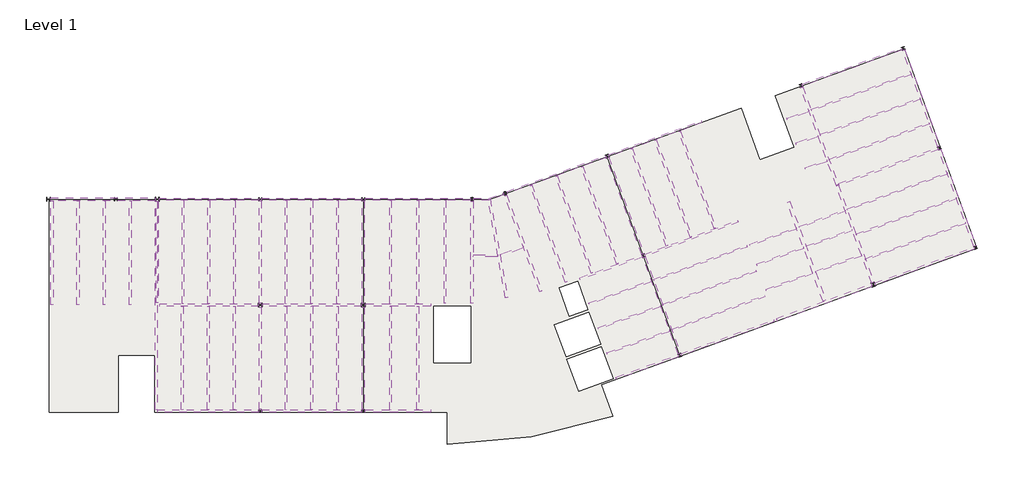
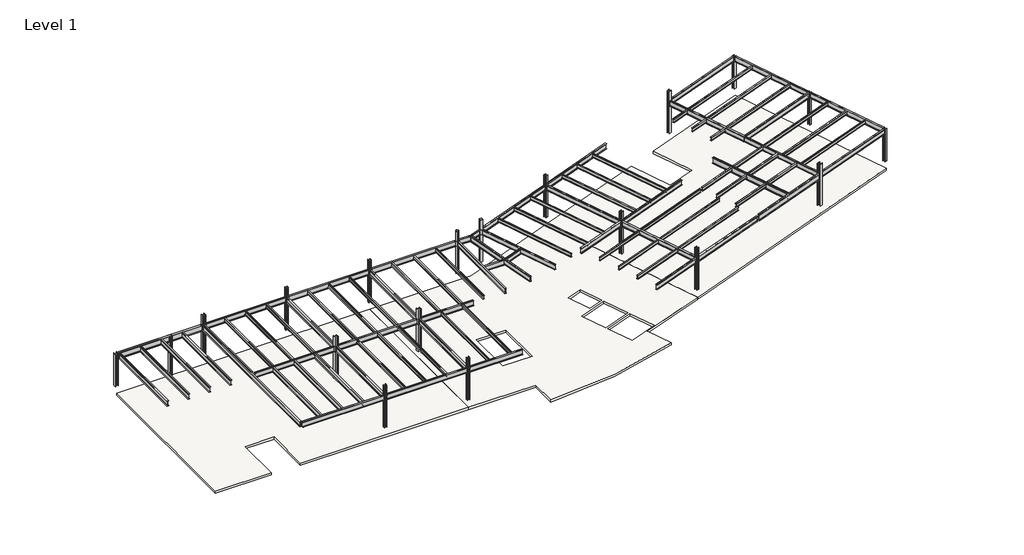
# One storey: 87 beams, 19 columns, 1 slab.
"""IFC4 building model written with IfcOpenShell, lengths in millimetres."""

from ifc_helpers import new_model, si_unit, point, frame, frame_2d, origin, place, context, project, spatial, polyline, circle_curve, trimmed, segment, composite_curve, outline, extrude, transform, mapped, element, save
from components import beam_66a8d71c, ub_universal_beams_e915e172, ub_universal_beams_a95554c7, ub_universal_beams_b6dbdd7a, ub_universal_beams_9ada3ad7, ub_universal_beams_885cc86f, ub_universal_beams_c84566a2, ub_universal_beams_4841b023, ub_universal_beams_20791346, ub_universal_beams_18d3feb0, ub_universal_beams_59459dd6, ub_universal_beams_568b5c51, ub_universal_beams_e00400c9, ub_universal_beams_f823aa85, ub_universal_beams_cdbcbb51, ub_universal_beams_2db27d90, ub_universal_beams_feb0265b, ub_universal_beams_78ad538f, ub_universal_beams_801fcbf0, ub_universal_beams_7192e0ee, ub_universal_beams_e0a47d06, ub_universal_beams_f5dc209c, ub_universal_beams_f862a4b8, ub_universal_beams_0fc11a2d, ub_universal_beams_656765b2, ub_universal_beams_21f5ef47, ub_universal_beams_7b4bcd9a, ub_universal_beams_8d1efc97, ub_universal_beams_2b7a043a, ub_universal_beams_8d2b0bf5, ub_universal_beams_37de3949, ub_universal_beams_43212cfb, ub_universal_beams_777f85ab, ub_universal_beams_8ec85ef7, ub_universal_beams_16a75a32, ub_universal_beams_b9a7bbe5, ub_universal_beams_60794b88, ub_universal_beams_0c249d50, ub_universal_beams_892b370d, ub_universal_beams_25e113f4, ub_universal_beams_813faa96, ub_universal_beams_bf94d013, ub_universal_beams_c91190e6, column_fd5da61b, uc_universal_columns_column_9b15f2e4, uc_universal_columns_column_e63b660d, uc_universal_columns_column_cef70da3, uc_universal_columns_column_7956e9f7

model = new_model("IFC4")

# Units and contexts
model_context = context("Model", 3, world=origin())
ifc_project = project(units=[si_unit("LENGTHUNIT", "METRE", prefix="MILLI")], contexts=[model_context])

# Site, building, storey
site = spatial("IfcSite", under=ifc_project)
building = spatial("IfcBuilding", under=site)
storey = spatial("IfcBuildingStorey", under=building, Name="Level 1", Elevation=3695.0)

# Beams
placement = place(None, origin())
beam_shape = beam_66a8d71c(model_context)
element("IfcBeam", 1, ObjectType="Cranked Beam B2 : Cranked Beam B1", at=placement, inside=storey, context=model_context, shape_type="MappedRepresentation", body=[
    mapped(beam_shape, transform((0.0, 0.0, 0.0), x_axis=(1.0, 0.0, 0.0), y_axis=(0.0, 1.0, 0.0), z_axis=(0.0, 0.0, 1.0))),
])
ub_universal_beams_shape = ub_universal_beams_e915e172(model_context)
element("IfcBeam", 2, ObjectType="UB-Universal Beams : UB 18\" x 6\" x 2 1/2\"", at=placement, inside=storey, context=model_context, shape_type="MappedRepresentation", body=[
    mapped(ub_universal_beams_shape, transform((11712.2000023, 15363.2000005, 7366.0), x_axis=(1.0, 0.0, 0.0), y_axis=(0.0, 1.0, 0.0), z_axis=(0.0, 0.0, 1.0))),
])
ub_universal_beams_2_shape = ub_universal_beams_a95554c7(model_context)
element("IfcBeam", 3, ObjectType="UB-Universal Beams : UB 18\" x 6\" x 2 1/2\"", at=placement, inside=storey, context=model_context, shape_type="MappedRepresentation", body=[
    mapped(ub_universal_beams_2_shape, transform((19012.2000023, 15363.2000005, 7366.0), x_axis=(1.0, 0.0, 0.0), y_axis=(0.0, 1.0, 0.0), z_axis=(0.0, 0.0, 1.0))),
])
element("IfcBeam", 4, ObjectType="UB-Universal Beams : UB 18\" x 6\" x 2 1/2\"", at=placement, inside=storey, context=model_context, shape_type="MappedRepresentation", body=[
    mapped(ub_universal_beams_2_shape, transform((19012.2000022, 363.2000005, 7366.0), x_axis=(1.0, 0.0, 0.0), y_axis=(0.0, 1.0, 0.0), z_axis=(0.0, 0.0, 1.0))),
])
ub_universal_beams_3_shape = ub_universal_beams_b6dbdd7a(model_context)
element("IfcBeam", 5, ObjectType="UB-Universal Beams : UB 18\" x 6\" x 2 1/2\"", at=placement, inside=storey, context=model_context, shape_type="MappedRepresentation", body=[
    mapped(ub_universal_beams_3_shape, transform((26512.2000022, 15363.2000005, 7366.0), x_axis=(1.0, 0.0, 0.0), y_axis=(0.0, 1.0, 0.0), z_axis=(0.0, 0.0, 1.0))),
])
ub_universal_beams_4_shape = ub_universal_beams_9ada3ad7(model_context)
element("IfcBeam", 6, ObjectType="UB-Universal Beams : UB 18\" x 6\" x 2 1/2\"", at=placement, inside=storey, context=model_context, shape_type="MappedRepresentation", body=[
    mapped(ub_universal_beams_4_shape, transform((11674.7000023, 7863.2000004, 7366.0), x_axis=(-1.0, 0.0, 0.0), y_axis=(0.0, -1.0, 0.0), z_axis=(0.0, 0.0, 1.0))),
])
ub_universal_beams_5_shape = ub_universal_beams_885cc86f(model_context)
element("IfcBeam", 7, ObjectType="UB-Universal Beams : UB 18\" x 6\" x 2 1/2\"", at=placement, inside=storey, context=model_context, shape_type="MappedRepresentation", body=[
    mapped(ub_universal_beams_5_shape, transform((11674.7000023, 363.2000005, 7366.0), x_axis=(-1.0, 0.0, 0.0), y_axis=(0.0, -1.0, 0.0), z_axis=(0.0, 0.0, 1.0))),
])
ub_universal_beams_6_shape = ub_universal_beams_c84566a2(model_context)
element("IfcBeam", 8, ObjectType="UB-Universal Beams : UB 18\" x 6\" x 2 1/2\"", at=placement, inside=storey, context=model_context, shape_type="MappedRepresentation", body=[
    mapped(ub_universal_beams_6_shape, transform((19012.2000023, 7863.2000004, 7366.0), x_axis=(1.0, 0.0, 0.0), y_axis=(0.0, 1.0, 0.0), z_axis=(0.0, 0.0, 1.0))),
])
ub_universal_beams_7_shape = ub_universal_beams_4841b023(model_context)
element("IfcBeam", 9, ObjectType="UB-Universal Beams : UB 18\" x 6\" x 2 1/2\"", at=placement, inside=storey, context=model_context, shape_type="MappedRepresentation", body=[
    mapped(ub_universal_beams_7_shape, transform((25112.2000025, 7863.2000004, 7366.0), x_axis=(1.0, 0.0, 0.0), y_axis=(0.0, 1.0, 0.0), z_axis=(0.0, 0.0, 1.0))),
])
ub_universal_beams_8_shape = ub_universal_beams_20791346(model_context)
element("IfcBeam", 10, ObjectType="UB-Universal Beams : UB 18\" x 6\" x 2 1/2\"", at=placement, inside=storey, context=model_context, shape_type="MappedRepresentation", body=[
    mapped(ub_universal_beams_8_shape, transform((25112.2000025, 363.2000005, 7366.0), x_axis=(1.0, 0.0, 0.0), y_axis=(0.0, 1.0, 0.0), z_axis=(0.0, 0.0, 1.0))),
])
ub_universal_beams_9_shape = ub_universal_beams_18d3feb0(model_context)
element("IfcBeam", 11, ObjectType="UB-Universal Beams : UB 18\" x 6\" x 2 1/2\"", at=placement, inside=storey, context=model_context, shape_type="MappedRepresentation", body=[
    mapped(ub_universal_beams_9_shape, transform((8062.2000022, 11613.2000005, 7366.0), x_axis=(0.0, 1.0, 0.0), y_axis=(-1.0, 0.0, 0.0), z_axis=(0.0, 0.0, 1.0))),
])
ub_universal_beams_10_shape = ub_universal_beams_59459dd6(model_context)
element("IfcBeam", 12, ObjectType="UB-Universal Beams : UB 18\" x 6\" x 2 1/2\"", at=placement, inside=storey, context=model_context, shape_type="MappedRepresentation", body=[
    mapped(ub_universal_beams_10_shape, transform((15362.2000023, 4113.2000005, 7366.0), x_axis=(0.0, 1.0, 0.0), y_axis=(-1.0, 0.0, 0.0), z_axis=(0.0, 0.0, 1.0))),
])
element("IfcBeam", 13, ObjectType="UB-Universal Beams : UB 18\" x 6\" x 2 1/2\"", at=placement, inside=storey, context=model_context, shape_type="MappedRepresentation", body=[
    mapped(ub_universal_beams_10_shape, transform((22662.2000022, 4113.2000005, 7366.0), x_axis=(0.0, 1.0, 0.0), y_axis=(-1.0, 0.0, 0.0), z_axis=(0.0, 0.0, 1.0))),
])
ub_universal_beams_11_shape = ub_universal_beams_568b5c51(model_context)
element("IfcBeam", 14, ObjectType="UB-Universal Beams : UB 18\" x 6\" x 2 1/2\"", at=placement, inside=storey, context=model_context, shape_type="MappedRepresentation", body=[
    mapped(ub_universal_beams_11_shape, transform((15362.2000023, 11613.2000005, 7366.0), x_axis=(0.0, 1.0, 0.0), y_axis=(-1.0, 0.0, 0.0), z_axis=(0.0, 0.0, 1.0))),
])
element("IfcBeam", 15, ObjectType="UB-Universal Beams : UB 18\" x 6\" x 2 1/2\"", at=placement, inside=storey, context=model_context, shape_type="MappedRepresentation", body=[
    mapped(ub_universal_beams_11_shape, transform((22662.2000022, 11613.2000005, 7366.0), x_axis=(0.0, 1.0, 0.0), y_axis=(-1.0, 0.0, 0.0), z_axis=(0.0, 0.0, 1.0))),
])
ub_universal_beams_12_shape = ub_universal_beams_e00400c9(model_context)
element("IfcBeam", 16, ObjectType="UB-Universal Beams : UB 18\" x 6\" x 2 1/2\"", at=placement, inside=storey, context=model_context, shape_type="MappedRepresentation", body=[
    mapped(ub_universal_beams_12_shape, transform((30362.2000022, 11613.2000005, 7366.0), x_axis=(0.0, 1.0, 0.0), y_axis=(-1.0, 0.0, 0.0), z_axis=(0.0, 0.0, 1.0))),
])
ub_universal_beams_13_shape = ub_universal_beams_f823aa85(model_context)
element("IfcBeam", 17, ObjectType="UB-Universal Beams : UB 12\" x 5\" x 1 1/2\"", at=placement, inside=storey, context=model_context, shape_type="MappedRepresentation", body=[
    mapped(ub_universal_beams_13_shape, transform((9887.2000022, 11613.2000005, 7442.8), x_axis=(0.0, 1.0, 0.0), y_axis=(-1.0, 0.0, 0.0), z_axis=(0.0, 0.0, 1.0))),
])
element("IfcBeam", 18, ObjectType="UB-Universal Beams : UB 12\" x 5\" x 1 1/2\"", at=placement, inside=storey, context=model_context, shape_type="MappedRepresentation", body=[
    mapped(ub_universal_beams_13_shape, transform((11712.2000022, 11613.2000005, 7442.8), x_axis=(0.0, 1.0, 0.0), y_axis=(-1.0, 0.0, 0.0), z_axis=(0.0, 0.0, 1.0))),
])
element("IfcBeam", 19, ObjectType="UB-Universal Beams : UB 12\" x 5\" x 1 1/2\"", at=placement, inside=storey, context=model_context, shape_type="MappedRepresentation", body=[
    mapped(ub_universal_beams_13_shape, transform((13537.2000023, 11613.2000005, 7442.8), x_axis=(0.0, 1.0, 0.0), y_axis=(-1.0, 0.0, 0.0), z_axis=(0.0, 0.0, 1.0))),
])
element("IfcBeam", 20, ObjectType="UB-Universal Beams : UB 12\" x 5\" x 1 1/2\"", at=placement, inside=storey, context=model_context, shape_type="MappedRepresentation", body=[
    mapped(ub_universal_beams_13_shape, transform((17187.2000023, 11613.2000005, 7442.8), x_axis=(0.0, 1.0, 0.0), y_axis=(-1.0, 0.0, 0.0), z_axis=(0.0, 0.0, 1.0))),
])
element("IfcBeam", 21, ObjectType="UB-Universal Beams : UB 12\" x 5\" x 1 1/2\"", at=placement, inside=storey, context=model_context, shape_type="MappedRepresentation", body=[
    mapped(ub_universal_beams_13_shape, transform((19012.2000023, 11613.2000005, 7442.8), x_axis=(0.0, 1.0, 0.0), y_axis=(-1.0, 0.0, 0.0), z_axis=(0.0, 0.0, 1.0))),
])
element("IfcBeam", 22, ObjectType="UB-Universal Beams : UB 12\" x 5\" x 1 1/2\"", at=placement, inside=storey, context=model_context, shape_type="MappedRepresentation", body=[
    mapped(ub_universal_beams_13_shape, transform((20837.2000022, 11613.2000005, 7442.8), x_axis=(0.0, 1.0, 0.0), y_axis=(-1.0, 0.0, 0.0), z_axis=(0.0, 0.0, 1.0))),
])
element("IfcBeam", 23, ObjectType="UB-Universal Beams : UB 12\" x 5\" x 1 1/2\"", at=placement, inside=storey, context=model_context, shape_type="MappedRepresentation", body=[
    mapped(ub_universal_beams_13_shape, transform((24587.2000022, 11613.2000005, 7442.8), x_axis=(0.0, 1.0, 0.0), y_axis=(-1.0, 0.0, 0.0), z_axis=(0.0, 0.0, 1.0))),
])
element("IfcBeam", 24, ObjectType="UB-Universal Beams : UB 12\" x 5\" x 1 1/2\"", at=placement, inside=storey, context=model_context, shape_type="MappedRepresentation", body=[
    mapped(ub_universal_beams_13_shape, transform((26512.2000022, 11613.2000005, 7442.8), x_axis=(0.0, 1.0, 0.0), y_axis=(-1.0, 0.0, 0.0), z_axis=(0.0, 0.0, 1.0))),
])
element("IfcBeam", 25, ObjectType="UB-Universal Beams : UB 12\" x 5\" x 1 1/2\"", at=placement, inside=storey, context=model_context, shape_type="MappedRepresentation", body=[
    mapped(ub_universal_beams_13_shape, transform((17187.2000022, 4113.2000005, 7442.8), x_axis=(0.0, 1.0, 0.0), y_axis=(-1.0, 0.0, 0.0), z_axis=(0.0, 0.0, 1.0))),
])
element("IfcBeam", 26, ObjectType="UB-Universal Beams : UB 12\" x 5\" x 1 1/2\"", at=placement, inside=storey, context=model_context, shape_type="MappedRepresentation", body=[
    mapped(ub_universal_beams_13_shape, transform((19012.2000022, 4113.2000005, 7442.8), x_axis=(0.0, 1.0, 0.0), y_axis=(-1.0, 0.0, 0.0), z_axis=(0.0, 0.0, 1.0))),
])
element("IfcBeam", 27, ObjectType="UB-Universal Beams : UB 12\" x 5\" x 1 1/2\"", at=placement, inside=storey, context=model_context, shape_type="MappedRepresentation", body=[
    mapped(ub_universal_beams_13_shape, transform((20837.2000022, 4113.2000005, 7442.8), x_axis=(0.0, 1.0, 0.0), y_axis=(-1.0, 0.0, 0.0), z_axis=(0.0, 0.0, 1.0))),
])
element("IfcBeam", 28, ObjectType="UB-Universal Beams : UB 12\" x 5\" x 1 1/2\"", at=placement, inside=storey, context=model_context, shape_type="MappedRepresentation", body=[
    mapped(ub_universal_beams_13_shape, transform((24587.2000022, 4113.2000004, 7442.8), x_axis=(0.0, 1.0, 0.0), y_axis=(-1.0, 0.0, 0.0), z_axis=(0.0, 0.0, 1.0))),
])
element("IfcBeam", 29, ObjectType="UB-Universal Beams : UB 12\" x 5\" x 1 1/2\"", at=placement, inside=storey, context=model_context, shape_type="MappedRepresentation", body=[
    mapped(ub_universal_beams_13_shape, transform((26512.2000022, 4113.2000004, 7442.8), x_axis=(0.0, 1.0, 0.0), y_axis=(-1.0, 0.0, 0.0), z_axis=(0.0, 0.0, 1.0))),
])
element("IfcBeam", 30, ObjectType="UB-Universal Beams : UB 12\" x 5\" x 1 1/2\"", at=placement, inside=storey, context=model_context, shape_type="MappedRepresentation", body=[
    mapped(ub_universal_beams_13_shape, transform((39409.0148654, 14226.6858637, 7442.8), x_axis=(0.34202014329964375, -0.9396926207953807, 0.0), y_axis=(0.9396926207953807, 0.34202014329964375, 0.0), z_axis=(0.0, 0.0, 1.0))),
])
element("IfcBeam", 31, ObjectType="UB-Universal Beams : UB 12\" x 5\" x 1 1/2\"", at=placement, inside=storey, context=model_context, shape_type="MappedRepresentation", body=[
    mapped(ub_universal_beams_13_shape, transform((37600.1065704, 13568.2970878, 7442.8), x_axis=(0.34202014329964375, -0.9396926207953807, 0.0), y_axis=(0.9396926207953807, 0.34202014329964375, 0.0), z_axis=(0.0, 0.0, 1.0))),
])
element("IfcBeam", 32, ObjectType="UB-Universal Beams : UB 12\" x 5\" x 1 1/2\"", at=placement, inside=storey, context=model_context, shape_type="MappedRepresentation", body=[
    mapped(ub_universal_beams_13_shape, transform((42915.2429568, 15502.8485233, 7442.8), x_axis=(-0.3420201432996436, 0.9396926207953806, 0.0), y_axis=(-0.9396926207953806, -0.3420201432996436, 0.0), z_axis=(0.0, 0.0, 1.0))),
])
element("IfcBeam", 33, ObjectType="UB-Universal Beams : UB 12\" x 5\" x 1 1/2\"", at=placement, inside=storey, context=model_context, shape_type="MappedRepresentation", body=[
    mapped(ub_universal_beams_13_shape, transform((44612.5627531, 16120.6224071, 7442.8), x_axis=(-0.34202014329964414, 0.9396926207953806, 0.0), y_axis=(-0.9396926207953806, -0.34202014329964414, 0.0), z_axis=(0.0, 0.0, 1.0))),
])
element("IfcBeam", 34, ObjectType="UB-Universal Beams : UB 12\" x 5\" x 1 1/2\"", at=placement, inside=storey, context=model_context, shape_type="MappedRepresentation", body=[
    mapped(ub_universal_beams_13_shape, transform((46309.8825494, 16738.396291, 7442.8), x_axis=(-0.34202014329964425, 0.9396926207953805, 0.0), y_axis=(-0.9396926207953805, -0.34202014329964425, 0.0), z_axis=(0.0, 0.0, 1.0))),
])
ub_universal_beams_14_shape = ub_universal_beams_cdbcbb51(model_context)
element("IfcBeam", 35, ObjectType="UB-Universal Beams : UB 12\" x 5\" x 1 1/2\"", at=placement, inside=storey, context=model_context, shape_type="MappedRepresentation", body=[
    mapped(ub_universal_beams_14_shape, transform((28437.2000022, 11613.2000005, 7442.8), x_axis=(0.0, 1.0, 0.0), y_axis=(-1.0, 0.0, 0.0), z_axis=(0.0, 0.0, 1.0))),
])
ub_universal_beams_15_shape = ub_universal_beams_2db27d90(model_context)
element("IfcBeam", 36, ObjectType="UB-Universal Beams : UB 18\" x 6\" x 2 1/2\"", at=placement, inside=storey, context=model_context, shape_type="MappedRepresentation", body=[
    mapped(ub_universal_beams_15_shape, transform((33982.2899804, 12251.5195361, 7366.0), x_axis=(0.3420201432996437, -0.9396926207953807, 0.0), y_axis=(0.9396926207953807, 0.3420201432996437, 0.0), z_axis=(0.0, 0.0, 1.0))),
])
ub_universal_beams_16_shape = ub_universal_beams_feb0265b(model_context)
element("IfcBeam", 37, ObjectType="UB-Universal Beams : UB 18\" x 6\" x 2 1/2\"", at=placement, inside=storey, context=model_context, shape_type="MappedRepresentation", body=[
    mapped(ub_universal_beams_16_shape, transform((32191.7898055, 11821.5156209, 7366.0), x_axis=(0.173648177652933, -0.9848077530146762, 0.0), y_axis=(0.9848077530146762, 0.173648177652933, 0.0), z_axis=(0.0, 0.0, 1.0))),
])
ub_universal_beams_17_shape = ub_universal_beams_78ad538f(model_context)
element("IfcBeam", 38, ObjectType="UB-Universal Beams : UB 18\" x 6\" x 2 1/2\"", at=placement, inside=storey, context=model_context, shape_type="MappedRepresentation", body=[
    mapped(ub_universal_beams_17_shape, transform((31317.5755278, 11361.2273115, 7366.0), x_axis=(1.0, 0.0, 0.0), y_axis=(0.0, 1.0, 0.0), z_axis=(0.0, 0.0, 1.0))),
])
ub_universal_beams_18_shape = ub_universal_beams_801fcbf0(model_context)
element("IfcBeam", 39, ObjectType="UB-Universal Beams : UB 18\" x 6\" x 2 1/2\"", at=placement, inside=storey, context=model_context, shape_type="MappedRepresentation", body=[
    mapped(ub_universal_beams_18_shape, transform((33170.7103845, 11687.9849855, 7366.0), x_axis=(0.9396926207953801, 0.3420201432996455, 0.0), y_axis=(-0.3420201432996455, 0.9396926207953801, 0.0), z_axis=(0.0, 0.0, 1.0))),
])
ub_universal_beams_19_shape = ub_universal_beams_7192e0ee(model_context)
element("IfcBeam", 40, ObjectType="UB-Universal Beams : UB 18\" x 6\" x 2 1/2\"", at=placement, inside=storey, context=model_context, shape_type="MappedRepresentation", body=[
    mapped(ub_universal_beams_19_shape, transform((43329.9872158, 19644.4697351, 7366.0), x_axis=(0.9396926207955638, 0.3420201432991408, 0.0), y_axis=(-0.3420201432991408, 0.9396926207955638, 0.0), z_axis=(0.0, 0.0, 1.0))),
])
element("IfcBeam", 41, ObjectType="UB-Universal Beams : UB 18\" x 6\" x 2 1/2\"", at=placement, inside=storey, context=model_context, shape_type="MappedRepresentation", body=[
    mapped(ub_universal_beams_19_shape, transform((45895.1382905, 12596.7750792, 7366.0), x_axis=(0.9396926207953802, 0.34202014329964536, 0.0), y_axis=(-0.34202014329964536, 0.9396926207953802, 0.0), z_axis=(0.0, 0.0, 1.0))),
])
element("IfcBeam", 42, ObjectType="UB-Universal Beams : UB 18\" x 6\" x 2 1/2\"", at=placement, inside=storey, context=model_context, shape_type="MappedRepresentation", body=[
    mapped(ub_universal_beams_19_shape, transform((48460.2893652, 5549.0804232, 7366.0), x_axis=(0.9396926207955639, 0.3420201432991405, 0.0), y_axis=(-0.3420201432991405, 0.9396926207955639, 0.0), z_axis=(0.0, 0.0, 1.0))),
])
ub_universal_beams_20_shape = ub_universal_beams_e0a47d06(model_context)
element("IfcBeam", 43, ObjectType="UB-Universal Beams : UB 18\" x 6\" x 2 1/2\"", at=placement, inside=storey, context=model_context, shape_type="MappedRepresentation", body=[
    mapped(ub_universal_beams_20_shape, transform((40198.2517768, 10523.2779603, 7366.0), x_axis=(0.9396926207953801, 0.34202014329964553, 0.0), y_axis=(-0.34202014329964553, 0.9396926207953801, 0.0), z_axis=(0.0, 0.0, 1.0))),
])
ub_universal_beams_21_shape = ub_universal_beams_f5dc209c(model_context)
element("IfcBeam", 44, ObjectType="UB-Universal Beams : UB 18\" x 6\" x 2 1/2\"", at=placement, inside=storey, context=model_context, shape_type="MappedRepresentation", body=[
    mapped(ub_universal_beams_21_shape, transform((41217.9231605, 14885.0746394, 7366.0), x_axis=(-0.3420201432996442, 0.9396926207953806, 0.0), y_axis=(-0.9396926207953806, -0.3420201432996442, 0.0), z_axis=(0.0, 0.0, 1.0))),
])
element("IfcBeam", 45, ObjectType="UB-Universal Beams : UB 18\" x 6\" x 2 1/2\"", at=placement, inside=storey, context=model_context, shape_type="MappedRepresentation", body=[
    mapped(ub_universal_beams_21_shape, transform((43783.0742352, 7837.3799835, 7366.0), x_axis=(-0.3420201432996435, 0.939692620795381, 0.0), y_axis=(-0.939692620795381, -0.3420201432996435, 0.0), z_axis=(0.0, 0.0, 1.0))),
])
ub_universal_beams_22_shape = ub_universal_beams_f862a4b8(model_context)
element("IfcBeam", 46, ObjectType="UB-Universal Beams : UB 18\" x 6\" x 2 1/2\"", at=placement, inside=storey, context=model_context, shape_type="MappedRepresentation", body=[
    mapped(ub_universal_beams_22_shape, transform((42763.4028515, 3475.5833044, 7366.0), x_axis=(-0.9396926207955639, -0.34202014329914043, 0.0), y_axis=(0.34202014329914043, -0.9396926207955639, 0.0), z_axis=(0.0, 0.0, 1.0))),
])
ub_universal_beams_23_shape = ub_universal_beams_0fc11a2d(model_context)
element("IfcBeam", 47, ObjectType="UB-Universal Beams : UB 20 1/2\" x 8 1/2\" x 3 1/2\"", at=placement, inside=storey, context=model_context, shape_type="MappedRepresentation", body=[
    mapped(ub_universal_beams_23_shape, transform((55320.045497, 8045.8274693, 7330.85), x_axis=(0.9396926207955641, 0.3420201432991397, 0.0), y_axis=(-0.3420201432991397, 0.9396926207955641, 0.0), z_axis=(0.0, 0.0, 1.0))),
])
ub_universal_beams_24_shape = ub_universal_beams_656765b2(model_context)
element("IfcBeam", 48, ObjectType="UB-Universal Beams : UB 18\" x 6\" x 2 1/2\"", at=placement, inside=storey, context=model_context, shape_type="MappedRepresentation", body=[
    mapped(ub_universal_beams_24_shape, transform((62402.9786263, 10623.8042994, 7366.0), x_axis=(0.9396926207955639, 0.34202014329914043, 0.0), y_axis=(-0.34202014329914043, 0.9396926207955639, 0.0), z_axis=(0.0, 0.0, 1.0))),
])
element("IfcBeam", 49, ObjectType="UB-Universal Beams : UB 18\" x 6\" x 2 1/2\"", at=placement, inside=storey, context=model_context, shape_type="MappedRepresentation", body=[
    mapped(ub_universal_beams_21_shape, transform((64738.219679, 15464.4291791, 7366.0), x_axis=(-0.34202014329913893, 0.9396926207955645, 0.0), y_axis=(-0.9396926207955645, -0.34202014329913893, 0.0), z_axis=(0.0, 0.0, 1.0))),
])
element("IfcBeam", 50, ObjectType="UB-Universal Beams : UB 18\" x 6\" x 2 1/2\"", at=placement, inside=storey, context=model_context, shape_type="MappedRepresentation", body=[
    mapped(ub_universal_beams_21_shape, transform((62173.0686043, 22512.123835, 7366.0), x_axis=(-0.3420201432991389, 0.9396926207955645, 0.0), y_axis=(-0.9396926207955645, -0.3420201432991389, 0.0), z_axis=(0.0, 0.0, 1.0))),
])
ub_universal_beams_25_shape = ub_universal_beams_21f5ef47(model_context)
element("IfcBeam", 51, ObjectType="UB-Universal Beams : UB 18\" x 6\" x 2 1/2\"", at=placement, inside=storey, context=model_context, shape_type="MappedRepresentation", body=[
    mapped(ub_universal_beams_25_shape, transform((57272.6764768, 24719.1936113, 7366.0), x_axis=(-0.9396926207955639, -0.3420201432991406, 0.0), y_axis=(0.3420201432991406, -0.9396926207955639, 0.0), z_axis=(0.0, 0.0, 1.0))),
])
ub_universal_beams_26_shape = ub_universal_beams_7b4bcd9a(model_context)
element("IfcBeam", 52, ObjectType="UB-Universal Beams : UB 18\" x 6\" x 2 1/2\"", at=placement, inside=storey, context=model_context, shape_type="MappedRepresentation", body=[
    mapped(ub_universal_beams_26_shape, transform((54937.4354241, 19878.5687316, 7366.0), x_axis=(-0.3420201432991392, 0.9396926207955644, 0.0), y_axis=(-0.9396926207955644, -0.3420201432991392, 0.0), z_axis=(0.0, 0.0, 1.0))),
])
ub_universal_beams_27_shape = ub_universal_beams_8d1efc97(model_context)
element("IfcBeam", 53, ObjectType="UB-Universal Beams : UB 12\" x 5\" x 1 1/2\"", at=placement, inside=storey, context=model_context, shape_type="MappedRepresentation", body=[
    mapped(ub_universal_beams_27_shape, transform((35791.1982754, 12909.908312, 7442.8), x_axis=(0.3420201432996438, -0.9396926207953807, 0.0), y_axis=(0.9396926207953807, 0.3420201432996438, 0.0), z_axis=(0.0, 0.0, 1.0))),
])
ub_universal_beams_28_shape = ub_universal_beams_2b7a043a(model_context)
element("IfcBeam", 54, ObjectType="UB-Universal Beams : UB 12\" x 5\" x 1 1/2\"", at=placement, inside=storey, context=model_context, shape_type="MappedRepresentation", body=[
    mapped(ub_universal_beams_28_shape, transform((42122.1150828, 5237.5069684, 7442.8), x_axis=(-0.939692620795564, -0.3420201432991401, 0.0), y_axis=(0.3420201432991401, -0.939692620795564, 0.0), z_axis=(0.0, 0.0, 1.0))),
])
element("IfcBeam", 55, ObjectType="UB-Universal Beams : UB 12\" x 5\" x 1 1/2\"", at=placement, inside=storey, context=model_context, shape_type="MappedRepresentation", body=[
    mapped(ub_universal_beams_28_shape, transform((41480.8273141, 6999.4306323, 7442.8), x_axis=(-0.9396926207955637, -0.3420201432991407, 0.0), y_axis=(0.3420201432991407, -0.9396926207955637, 0.0), z_axis=(0.0, 0.0, 1.0))),
])
element("IfcBeam", 56, ObjectType="UB-Universal Beams : UB 12\" x 5\" x 1 1/2\"", at=placement, inside=storey, context=model_context, shape_type="MappedRepresentation", body=[
    mapped(ub_universal_beams_28_shape, transform((40839.5395455, 8761.3542963, 7442.8), x_axis=(-0.939692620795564, -0.3420201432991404, 0.0), y_axis=(0.3420201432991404, -0.939692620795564, 0.0), z_axis=(0.0, 0.0, 1.0))),
])
ub_universal_beams_29_shape = ub_universal_beams_8d2b0bf5(model_context)
element("IfcBeam", 57, ObjectType="UB-Universal Beams : UB 12\" x 5\" x 1 1/2\"", at=placement, inside=storey, context=model_context, shape_type="MappedRepresentation", body=[
    mapped(ub_universal_beams_29_shape, transform((46536.4260592, 10834.8514152, 7442.8), x_axis=(0.9396926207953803, 0.342020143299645, 0.0), y_axis=(-0.342020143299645, 0.9396926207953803, 0.0), z_axis=(0.0, 0.0, 1.0))),
])
element("IfcBeam", 58, ObjectType="UB-Universal Beams : UB 12\" x 5\" x 1 1/2\"", at=placement, inside=storey, context=model_context, shape_type="MappedRepresentation", body=[
    mapped(ub_universal_beams_29_shape, transform((47177.7138279, 9072.9277512, 7442.8), x_axis=(0.9396926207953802, 0.34202014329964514, 0.0), y_axis=(-0.34202014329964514, 0.9396926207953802, 0.0), z_axis=(0.0, 0.0, 1.0))),
])
element("IfcBeam", 59, ObjectType="UB-Universal Beams : UB 12\" x 5\" x 1 1/2\"", at=placement, inside=storey, context=model_context, shape_type="MappedRepresentation", body=[
    mapped(ub_universal_beams_29_shape, transform((47819.0015966, 7311.0040872, 7442.8), x_axis=(0.9396926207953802, 0.3420201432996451, 0.0), y_axis=(-0.3420201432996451, 0.9396926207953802, 0.0), z_axis=(0.0, 0.0, 1.0))),
])
ub_universal_beams_30_shape = ub_universal_beams_37de3949(model_context)
element("IfcBeam", 60, ObjectType="UB-Universal Beams : UB 18\" x 6\" x 2 1/2\"", at=placement, inside=storey, context=model_context, shape_type="MappedRepresentation", body=[
    mapped(ub_universal_beams_30_shape, transform((59849.5737093, 17675.7742072, 7366.0), x_axis=(0.9396926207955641, 0.3420201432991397, 0.0), y_axis=(-0.3420201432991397, 0.9396926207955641, 0.0), z_axis=(0.0, 0.0, 1.0))),
])
ub_universal_beams_31_shape = ub_universal_beams_43212cfb(model_context)
element("IfcBeam", 61, ObjectType="UB-Universal Beams : UB 18\" x 6\" x 2 1/2\"", at=placement, inside=storey, context=model_context, shape_type="MappedRepresentation", body=[
    mapped(ub_universal_beams_31_shape, transform((57502.5864988, 12830.8740757, 7366.0), x_axis=(0.3420201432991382, -0.9396926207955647, 0.0), y_axis=(0.9396926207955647, 0.3420201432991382, 0.0), z_axis=(0.0, 0.0, 1.0))),
])
ub_universal_beams_32_shape = ub_universal_beams_777f85ab(model_context)
element("IfcBeam", 62, ObjectType="UB-Universal Beams : UB 12\" x 5\" x 1 1/2\"", at=placement, inside=storey, context=model_context, shape_type="MappedRepresentation", body=[
    mapped(ub_universal_beams_32_shape, transform((60479.1153202, 15909.5752914, 7442.8), x_axis=(0.9396926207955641, 0.34202014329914, 0.0), y_axis=(-0.34202014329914, 0.9396926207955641, 0.0), z_axis=(0.0, 0.0, 1.0))),
])
element("IfcBeam", 63, ObjectType="UB-Universal Beams : UB 12\" x 5\" x 1 1/2\"", at=placement, inside=storey, context=model_context, shape_type="MappedRepresentation", body=[
    mapped(ub_universal_beams_32_shape, transform((61120.4030889, 14147.6516274, 7442.8), x_axis=(0.9396926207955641, 0.34202014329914, 0.0), y_axis=(-0.34202014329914, 0.9396926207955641, 0.0), z_axis=(0.0, 0.0, 1.0))),
])
element("IfcBeam", 64, ObjectType="UB-Universal Beams : UB 12\" x 5\" x 1 1/2\"", at=placement, inside=storey, context=model_context, shape_type="MappedRepresentation", body=[
    mapped(ub_universal_beams_32_shape, transform((61761.6908576, 12385.7279634, 7442.8), x_axis=(0.9396926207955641, 0.3420201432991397, 0.0), y_axis=(-0.3420201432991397, 0.9396926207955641, 0.0), z_axis=(0.0, 0.0, 1.0))),
])
element("IfcBeam", 65, ObjectType="UB-Universal Beams : UB 12\" x 5\" x 1 1/2\"", at=placement, inside=storey, context=model_context, shape_type="MappedRepresentation", body=[
    mapped(ub_universal_beams_32_shape, transform((57913.9642455, 22957.2699473, 7442.8), x_axis=(0.9396926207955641, 0.3420201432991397, 0.0), y_axis=(-0.3420201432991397, 0.9396926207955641, 0.0), z_axis=(0.0, 0.0, 1.0))),
])
element("IfcBeam", 66, ObjectType="UB-Universal Beams : UB 12\" x 5\" x 1 1/2\"", at=placement, inside=storey, context=model_context, shape_type="MappedRepresentation", body=[
    mapped(ub_universal_beams_32_shape, transform((58555.2520142, 21195.3462833, 7442.8), x_axis=(0.9396926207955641, 0.3420201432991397, 0.0), y_axis=(-0.3420201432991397, 0.9396926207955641, 0.0), z_axis=(0.0, 0.0, 1.0))),
])
element("IfcBeam", 67, ObjectType="UB-Universal Beams : UB 12\" x 5\" x 1 1/2\"", at=placement, inside=storey, context=model_context, shape_type="MappedRepresentation", body=[
    mapped(ub_universal_beams_32_shape, transform((59196.5397829, 19433.4226193, 7442.8), x_axis=(0.9396926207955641, 0.3420201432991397, 0.0), y_axis=(-0.3420201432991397, 0.9396926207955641, 0.0), z_axis=(0.0, 0.0, 1.0))),
])
ub_universal_beams_33_shape = ub_universal_beams_8ec85ef7(model_context)
element("IfcBeam", 68, ObjectType="UB-Universal Beams : UB 20 1/2\" x 8 1/2\" x 3 1/2\"", at=placement, inside=storey, context=model_context, shape_type="MappedRepresentation", body=[
    mapped(ub_universal_beams_33_shape, transform((54042.3541451, 11665.8982726, 7330.85), x_axis=(-0.34202014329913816, 0.9396926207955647, 0.0), y_axis=(-0.9396926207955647, -0.34202014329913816, 0.0), z_axis=(0.0, 0.0, 1.0))),
])
ub_universal_beams_34_shape = ub_universal_beams_16a75a32(model_context)
element("IfcBeam", 69, ObjectType="UB-Universal Beams : UB 12\" x 5\" x 1 1/2\"", at=placement, inside=storey, context=model_context, shape_type="MappedRepresentation", body=[
    mapped(ub_universal_beams_34_shape, transform((52185.7228693, 11321.365084, 7442.8), x_axis=(0.9396926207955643, 0.3420201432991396, 0.0), y_axis=(-0.3420201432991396, 0.9396926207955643, 0.0), z_axis=(0.0, 0.0, 1.0))),
])
element("IfcBeam", 70, ObjectType="UB-Universal Beams : UB 12\" x 5\" x 1 1/2\"", at=placement, inside=storey, context=model_context, shape_type="MappedRepresentation", body=[
    mapped(ub_universal_beams_34_shape, transform((51681.2431579, 12707.4116997, 7442.8), x_axis=(0.9396926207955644, 0.34202014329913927, 0.0), y_axis=(-0.34202014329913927, 0.9396926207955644, 0.0), z_axis=(0.0, 0.0, 1.0))),
])
ub_universal_beams_35_shape = ub_universal_beams_b9a7bbe5(model_context)
element("IfcBeam", 71, ObjectType="UB-Universal Beams : UB 12\" x 5\" x 1 1/2\"", at=placement, inside=storey, context=model_context, shape_type="MappedRepresentation", body=[
    mapped(ub_universal_beams_35_shape, transform((55650.8394085, 12582.5643624, 7442.8), x_axis=(0.939692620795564, 0.34202014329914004, 0.0), y_axis=(-0.34202014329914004, 0.939692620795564, 0.0), z_axis=(0.0, 0.0, 1.0))),
])
element("IfcBeam", 72, ObjectType="UB-Universal Beams : UB 12\" x 5\" x 1 1/2\"", at=placement, inside=storey, context=model_context, shape_type="MappedRepresentation", body=[
    mapped(ub_universal_beams_35_shape, transform((56300.6776807, 10797.1483829, 7442.8), x_axis=(0.9396926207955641, 0.3420201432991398, 0.0), y_axis=(-0.3420201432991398, 0.9396926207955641, 0.0), z_axis=(0.0, 0.0, 1.0))),
])
element("IfcBeam", 73, ObjectType="UB-Universal Beams : UB 12\" x 5\" x 1 1/2\"", at=placement, inside=storey, context=model_context, shape_type="MappedRepresentation", body=[
    mapped(ub_universal_beams_35_shape, transform((55146.3596971, 13968.6109781, 7442.8), x_axis=(0.9396926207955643, 0.34202014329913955, 0.0), y_axis=(-0.34202014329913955, 0.9396926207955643, 0.0), z_axis=(0.0, 0.0, 1.0))),
])
ub_universal_beams_36_shape = ub_universal_beams_60794b88(model_context)
element("IfcBeam", 74, ObjectType="UB-Universal Beams : UB 12\" x 5\" x 1 1/2\"", at=placement, inside=storey, context=model_context, shape_type="MappedRepresentation", body=[
    mapped(ub_universal_beams_36_shape, transform((53431.3248942, 21325.7226526, 7442.8), x_axis=(-0.939692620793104, -0.34202014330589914, 0.0), y_axis=(0.34202014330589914, -0.939692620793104, 0.0), z_axis=(0.0, 0.0, 1.0))),
])
element("IfcBeam", 75, ObjectType="UB-Universal Beams : UB 12\" x 5\" x 1 1/2\"", at=placement, inside=storey, context=model_context, shape_type="MappedRepresentation", body=[
    mapped(ub_universal_beams_36_shape, transform((54072.6126629, 19563.7989886, 7442.8), x_axis=(-0.939692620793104, -0.3420201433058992, 0.0), y_axis=(0.3420201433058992, -0.939692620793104, 0.0), z_axis=(0.0, 0.0, 1.0))),
])
element("IfcBeam", 76, ObjectType="UB-Universal Beams : UB 12\" x 5\" x 1 1/2\"", at=placement, inside=storey, context=model_context, shape_type="MappedRepresentation", body=[
    mapped(ub_universal_beams_36_shape, transform((54713.9004316, 17801.8753247, 7442.8), x_axis=(-0.939692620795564, -0.34202014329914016, 0.0), y_axis=(0.34202014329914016, -0.939692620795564, 0.0), z_axis=(0.0, 0.0, 1.0))),
])
ub_universal_beams_37_shape = ub_universal_beams_0c249d50(model_context)
element("IfcBeam", 77, ObjectType="UB-Universal Beams : UB 12\" x 5\" x 1 1/2\"", at=placement, inside=storey, context=model_context, shape_type="MappedRepresentation", body=[
    mapped(ub_universal_beams_37_shape, transform((52835.5611416, 9535.9491045, 7442.8), x_axis=(-0.9396926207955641, -0.34202014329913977, 0.0), y_axis=(0.34202014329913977, -0.9396926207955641, 0.0), z_axis=(0.0, 0.0, 1.0))),
])
ub_universal_beams_38_shape = ub_universal_beams_892b370d(model_context)
element("IfcBeam", 78, ObjectType="UB-Universal Beams : UB 20 1/2\" x 8 1/2\" x 3 1/2\"", at=placement, inside=storey, context=model_context, shape_type="MappedRepresentation", body=[
    mapped(ub_universal_beams_38_shape, transform((4212.2000022, 15363.2000005, 7330.85), x_axis=(1.0, 0.0, 0.0), y_axis=(0.0, 1.0, 0.0), z_axis=(0.0, 0.0, 1.0))),
])
ub_universal_beams_39_shape = ub_universal_beams_25e113f4(model_context)
element("IfcBeam", 79, ObjectType="UB-Universal Beams : UB 18\" x 6\" x 2 1/2\"", at=placement, inside=storey, context=model_context, shape_type="MappedRepresentation", body=[
    mapped(ub_universal_beams_39_shape, transform((614.1000027, 11575.7000004, 7366.0), x_axis=(0.0, 1.0, 0.0), y_axis=(-1.0, 0.0, 0.0), z_axis=(0.0, 0.0, 1.0))),
])
element("IfcBeam", 80, ObjectType="UB-Universal Beams : UB 18\" x 6\" x 2 1/2\"", at=placement, inside=storey, context=model_context, shape_type="MappedRepresentation", body=[
    mapped(ub_universal_beams_39_shape, transform((2457.6125027, 11575.7000004, 7366.0), x_axis=(0.0, 1.0, 0.0), y_axis=(-1.0, 0.0, 0.0), z_axis=(0.0, 0.0, 1.0))),
])
element("IfcBeam", 81, ObjectType="UB-Universal Beams : UB 18\" x 6\" x 2 1/2\"", at=placement, inside=storey, context=model_context, shape_type="MappedRepresentation", body=[
    mapped(ub_universal_beams_39_shape, transform((4301.1250026, 11575.7000004, 7366.0), x_axis=(0.0, 1.0, 0.0), y_axis=(-1.0, 0.0, 0.0), z_axis=(0.0, 0.0, 1.0))),
])
element("IfcBeam", 82, ObjectType="UB-Universal Beams : UB 18\" x 6\" x 2 1/2\"", at=placement, inside=storey, context=model_context, shape_type="MappedRepresentation", body=[
    mapped(ub_universal_beams_39_shape, transform((6144.6375025, 11575.7000005, 7366.0), x_axis=(0.0, 1.0, 0.0), y_axis=(-1.0, 0.0, 0.0), z_axis=(0.0, 0.0, 1.0))),
])
ub_universal_beams_40_shape = ub_universal_beams_813faa96(model_context)
element("IfcBeam", 83, ObjectType="UB-Universal Beams : UB 18\" x 6\" x 2 1/2\"", at=placement, inside=storey, context=model_context, shape_type="MappedRepresentation", body=[
    mapped(ub_universal_beams_40_shape, transform((7988.1500025, 7863.2000005, 7366.0), x_axis=(0.0, 1.0, 0.0), y_axis=(-1.0, 0.0, 0.0), z_axis=(0.0, 0.0, 1.0))),
])
ub_universal_beams_41_shape = ub_universal_beams_bf94d013(model_context)
element("IfcBeam", 84, ObjectType="UB-Universal Beams : UB 18\" x 6\" x 2 1/2\"", at=placement, inside=storey, context=model_context, shape_type="MappedRepresentation", body=[
    mapped(ub_universal_beams_41_shape, transform((9831.6625024, 4113.2000005, 7366.0), x_axis=(0.0, 1.0, 0.0), y_axis=(-1.0, 0.0, 0.0), z_axis=(0.0, 0.0, 1.0))),
])
element("IfcBeam", 85, ObjectType="UB-Universal Beams : UB 18\" x 6\" x 2 1/2\"", at=placement, inside=storey, context=model_context, shape_type="MappedRepresentation", body=[
    mapped(ub_universal_beams_41_shape, transform((11675.1750024, 4113.2000005, 7366.0), x_axis=(0.0, 1.0, 0.0), y_axis=(-1.0, 0.0, 0.0), z_axis=(0.0, 0.0, 1.0))),
])
element("IfcBeam", 86, ObjectType="UB-Universal Beams : UB 18\" x 6\" x 2 1/2\"", at=placement, inside=storey, context=model_context, shape_type="MappedRepresentation", body=[
    mapped(ub_universal_beams_41_shape, transform((13518.6875023, 4113.2000005, 7366.0), x_axis=(0.0, 1.0, 0.0), y_axis=(-1.0, 0.0, 0.0), z_axis=(0.0, 0.0, 1.0))),
])
ub_universal_beams_42_shape = ub_universal_beams_c91190e6(model_context)
element("IfcBeam", 87, ObjectType="UB-Universal Beams : UB 18\" x 6\" x 2 1/2\"", at=placement, inside=storey, context=model_context, shape_type="MappedRepresentation", body=[
    mapped(ub_universal_beams_42_shape, transform((36317.5310328, 17092.1444158, 7366.0), x_axis=(0.9396926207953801, 0.3420201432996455, 0.0), y_axis=(-0.3420201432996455, 0.9396926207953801, 0.0), z_axis=(0.0, 0.0, 1.0))),
])

# Columns
column_shape = column_fd5da61b(model_context)
element("IfcColumn", 88, ObjectType="Circular Hollow Sections-Column : CHS 9 1/2\" x 1/4\"", at=placement, inside=storey, context=model_context, shape_type="MappedRepresentation", body=[
    mapped(column_shape, transform((30362.2000022, 15363.2000005, 0.0), x_axis=(0.0, 1.0, 0.0), y_axis=(-1.0, 0.0, 0.0), z_axis=(0.0, 0.0, 1.0))),
])
element("IfcColumn", 89, ObjectType="Circular Hollow Sections-Column : CHS 9 1/2\" x 1/4\"", at=placement, inside=storey, context=model_context, shape_type="MappedRepresentation", body=[
    mapped(column_shape, transform((32699.714443, 15775.3668642, 0.0), x_axis=(1.0, 0.0, 0.0), y_axis=(0.0, 1.0, 0.0), z_axis=(0.0, 0.0, 1.0))),
])
element("IfcColumn", 90, ObjectType="UC-Universal Columns-Column : UC 8\" x 8\" x 3\"", at=placement, inside=storey, context=model_context, shape_type="SweptSolid", body=[
    extrude(outline(composite_curve([segment(polyline([(5023.9666692, 15466.4000005), (5041.2666692, 15466.4000005), (5041.2666692, 15378.4000005)]), True, "CONTINUOUS"), segment(trimmed(circle_curve(frame_2d((5051.4666692, 15378.4000005)), 10.2), [point((5041.2666692, 15378.4000005))], [point((5051.4666692, 15368.2000005))], True, "CARTESIAN"), True, "CONTINUOUS"), segment(polyline([(5051.4666692, 15368.2000005), (5212.2666692, 15368.2000005)]), True, "CONTINUOUS"), segment(trimmed(circle_curve(frame_2d((5212.2666692, 15378.4000005)), 10.2), [point((5212.2666692, 15368.2000005))], [point((5222.4666692, 15378.4000005))], True, "CARTESIAN"), True, "CONTINUOUS"), segment(polyline([(5222.4666692, 15378.4000005), (5222.4666692, 15466.4000005), (5239.7666692, 15466.4000005), (5239.7666692, 15260.0000005), (5222.4666692, 15260.0000005), (5222.4666692, 15348.0000005)]), True, "CONTINUOUS"), segment(trimmed(circle_curve(frame_2d((5212.2666692, 15348.0000005)), 10.2), [point((5222.4666692, 15348.0000005))], [point((5212.2666692, 15358.2000005))], True, "CARTESIAN"), True, "CONTINUOUS"), segment(polyline([(5212.2666692, 15358.2000005), (5051.4666692, 15358.2000005)]), True, "CONTINUOUS"), segment(trimmed(circle_curve(frame_2d((5051.4666692, 15348.0000005)), 10.2), [point((5051.4666692, 15358.2000005))], [point((5041.2666692, 15348.0000005))], True, "CARTESIAN"), True, "CONTINUOUS"), segment(polyline([(5041.2666692, 15348.0000005), (5041.2666692, 15260.0000005), (5023.9666692, 15260.0000005), (5023.9666692, 15466.4000005)]), True, "CONTINUOUS")], self_intersect=False)), frame((0.0, 0.0, 3695.0), z_axis=(0.0, 0.0, 1.0), x_axis=(1.0, 0.0, 0.0)), (0.0, 0.0, 1.0), 3900.0),
])
uc_universal_columns_column_shape = uc_universal_columns_column_9b15f2e4(model_context)
element("IfcColumn", 91, ObjectType="UC-Universal Columns-Column : UC 10\" x 10\" x 5 1/2\"", at=placement, inside=storey, context=model_context, shape_type="MappedRepresentation", body=[
    mapped(uc_universal_columns_column_shape, transform((362.2000023, 15363.2000005, 0.0), x_axis=(0.0, 1.0, 0.0), y_axis=(-1.0, 0.0, 0.0), z_axis=(0.0, 0.0, 1.0))),
])
uc_universal_columns_column_2_shape = uc_universal_columns_column_e63b660d(model_context)
element("IfcColumn", 92, ObjectType="UC-Universal Columns-Column : UC 10\" x 10\" x 5 1/2\"", at=placement, inside=storey, context=model_context, shape_type="MappedRepresentation", body=[
    mapped(uc_universal_columns_column_2_shape, transform((15362.2000023, 7863.2000004, 0.0), x_axis=(0.0, 1.0, 0.0), y_axis=(-1.0, 0.0, 0.0), z_axis=(0.0, 0.0, 1.0))),
])
element("IfcColumn", 93, ObjectType="UC-Universal Columns-Column : UC 10\" x 10\" x 5 1/2\"", at=placement, inside=storey, context=model_context, shape_type="MappedRepresentation", body=[
    mapped(uc_universal_columns_column_2_shape, transform((22662.2000022, 7863.2000004, 0.0), x_axis=(0.0, 1.0, 0.0), y_axis=(-1.0, 0.0, 0.0), z_axis=(0.0, 0.0, 1.0))),
])
element("IfcColumn", 94, ObjectType="UC-Universal Columns-Column : UC 10\" x 10\" x 5 1/2\"", at=placement, inside=storey, context=model_context, shape_type="MappedRepresentation", body=[
    mapped(uc_universal_columns_column_2_shape, transform((8062.2000022, 15363.2000005, 0.0), x_axis=(0.0, 1.0, 0.0), y_axis=(-1.0, 0.0, 0.0), z_axis=(0.0, 0.0, 1.0))),
])
element("IfcColumn", 95, ObjectType="UC-Universal Columns-Column : UC 10\" x 10\" x 5 1/2\"", at=placement, inside=storey, context=model_context, shape_type="MappedRepresentation", body=[
    mapped(uc_universal_columns_column_2_shape, transform((58785.1620362, 9307.0267477, 0.0), x_axis=(0.9396926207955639, 0.3420201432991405, 0.0), y_axis=(-0.3420201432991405, 0.9396926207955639, 0.0), z_axis=(0.0, 0.0, 1.0))),
])
uc_universal_columns_column_3_shape = uc_universal_columns_column_cef70da3(model_context)
element("IfcColumn", 96, ObjectType="UC-Universal Columns-Column : UC 8\" x 8\" x 3\"", at=placement, inside=storey, context=model_context, shape_type="MappedRepresentation", body=[
    mapped(uc_universal_columns_column_3_shape, transform((22662.2000023, 15363.2000005, 0.0), x_axis=(0.0, 1.0, 0.0), y_axis=(-1.0, 0.0, 0.0), z_axis=(0.0, 0.0, 1.0))),
])
element("IfcColumn", 97, ObjectType="UC-Universal Columns-Column : UC 8\" x 8\" x 3\"", at=placement, inside=storey, context=model_context, shape_type="MappedRepresentation", body=[
    mapped(uc_universal_columns_column_3_shape, transform((15362.2000023, 15363.2000005, 0.0), x_axis=(0.0, 1.0, 0.0), y_axis=(-1.0, 0.0, 0.0), z_axis=(0.0, 0.0, 1.0))),
])
element("IfcColumn", 98, ObjectType="UC-Universal Columns-Column : UC 8\" x 8\" x 3\"", at=placement, inside=storey, context=model_context, shape_type="MappedRepresentation", body=[
    mapped(uc_universal_columns_column_3_shape, transform((15362.2000023, 363.2000005, 0.0), x_axis=(0.0, 1.0, 0.0), y_axis=(-1.0, 0.0, 0.0), z_axis=(0.0, 0.0, 1.0))),
])
element("IfcColumn", 99, ObjectType="UC-Universal Columns-Column : UC 8\" x 8\" x 3\"", at=placement, inside=storey, context=model_context, shape_type="MappedRepresentation", body=[
    mapped(uc_universal_columns_column_3_shape, transform((22662.2000022, 363.2000005, 0.0), x_axis=(0.0, 1.0, 0.0), y_axis=(-1.0, 0.0, 0.0), z_axis=(0.0, 0.0, 1.0))),
])
element("IfcColumn", 100, ObjectType="UC-Universal Columns-Column : UC 8\" x 8\" x 3\"", at=placement, inside=storey, context=model_context, shape_type="MappedRepresentation", body=[
    mapped(uc_universal_columns_column_3_shape, transform((42500.4986978, 11361.2273115, 0.0), x_axis=(0.9396926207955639, 0.3420201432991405, 0.0), y_axis=(-0.3420201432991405, 0.9396926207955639, 0.0), z_axis=(0.0, 0.0, 1.0))),
])
element("IfcColumn", 101, ObjectType="UC-Universal Columns-Column : UC 8\" x 8\" x 3\"", at=placement, inside=storey, context=model_context, shape_type="MappedRepresentation", body=[
    mapped(uc_universal_columns_column_3_shape, transform((39935.3476231, 18408.9219674, 0.0), x_axis=(0.9396926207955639, 0.3420201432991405, 0.0), y_axis=(-0.3420201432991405, 0.9396926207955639, 0.0), z_axis=(0.0, 0.0, 1.0))),
])
element("IfcColumn", 102, ObjectType="UC-Universal Columns-Column : UC 8\" x 8\" x 3\"", at=placement, inside=storey, context=model_context, shape_type="MappedRepresentation", body=[
    mapped(uc_universal_columns_column_3_shape, transform((53654.8598867, 23402.4160596, 0.0), x_axis=(0.9396926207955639, 0.3420201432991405, 0.0), y_axis=(-0.3420201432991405, 0.9396926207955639, 0.0), z_axis=(0.0, 0.0, 1.0))),
])
element("IfcColumn", 103, ObjectType="UC-Universal Columns-Column : UC 8\" x 8\" x 3\"", at=placement, inside=storey, context=model_context, shape_type="MappedRepresentation", body=[
    mapped(uc_universal_columns_column_3_shape, transform((45065.6497726, 4313.5326555, 0.0), x_axis=(0.939692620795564, 0.3420201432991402, 0.0), y_axis=(-0.3420201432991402, 0.939692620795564, 0.0), z_axis=(0.0, 0.0, 1.0))),
])
uc_universal_columns_column_4_shape = uc_universal_columns_column_7956e9f7(model_context)
element("IfcColumn", 104, ObjectType="UC-Universal Columns-Column : UC 8\" x 8\" x 3\"", at=placement, inside=storey, context=model_context, shape_type="MappedRepresentation", body=[
    mapped(uc_universal_columns_column_4_shape, transform((60890.4930669, 26035.971163, 0.0), x_axis=(0.9396926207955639, 0.3420201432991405, 0.0), y_axis=(-0.3420201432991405, 0.9396926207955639, 0.0), z_axis=(0.0, 0.0, 1.0))),
])
element("IfcColumn", 105, ObjectType="UC-Universal Columns-Column : UC 8\" x 8\" x 3\"", at=placement, inside=storey, context=model_context, shape_type="MappedRepresentation", body=[
    mapped(uc_universal_columns_column_4_shape, transform((63455.6441416, 18988.2765071, 0.0), x_axis=(0.9396926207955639, 0.3420201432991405, 0.0), y_axis=(-0.3420201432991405, 0.9396926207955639, 0.0), z_axis=(0.0, 0.0, 1.0))),
])
element("IfcColumn", 106, ObjectType="UC-Universal Columns-Column : UC 8\" x 8\" x 3\"", at=placement, inside=storey, context=model_context, shape_type="MappedRepresentation", body=[
    mapped(uc_universal_columns_column_4_shape, transform((66020.7952164, 11940.5818511, 0.0), x_axis=(0.9396926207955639, 0.3420201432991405, 0.0), y_axis=(-0.3420201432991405, 0.9396926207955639, 0.0), z_axis=(0.0, 0.0, 1.0))),
])

# Slab
element("IfcSlab", 107, ObjectType="RC COMP 7\"", at=placement, inside=storey, context=model_context, shape_type="SweptSolid", body=[
    extrude(outline(polyline([(39950.6701255, 18366.823738), (49412.7637168, 21810.7441587), (50743.9061145, 18153.4604787), (53177.7100023, 19039.2926498), (51846.5676046, 22696.5763298), (60969.2448211, 26016.9592931), (66109.9443828, 11893.0033256), (45091.3696873, 4242.8677705), (39950.6701255, 18366.823738)])), frame((0.0, 0.0, 3695.0), z_axis=(0.0, 0.0, 1.0), x_axis=(1.0, 0.0, 0.0)), (0.0, 0.0, 1.0), 200.0),
    extrude(outline(polyline([(22662.2000022, 288.0000005), (7887.2000023, 288.0000005), (7887.2000023, 4300.0), (5297.2000024, 4300.0), (5297.2000024, 288.0), (408.0, 288.0), (408.0000025, 15318.4000008), (22662.2000023, 15318.4000005), (22662.2000022, 288.0000005)])), frame((0.0, 0.0, 3695.0), z_axis=(0.0, 0.0, 1.0), x_axis=(1.0, 0.0, 0.0)), (0.0, 0.0, 1.0), 200.0),
    extrude(outline(composite_curve([segment(polyline([(39521.1756429, 2215.4829394), (40330.9765444, -9.4267517)]), True, "CONTINUOUS"), segment(trimmed(circle_curve(frame_2d((28027.924496, 36998.4991929)), 38999.3804108), [point((40330.9765444, -9.4267517))], [point((28589.8766928, -1996.8323502))], False, "CARTESIAN"), True, "CONTINUOUS"), segment(polyline([(28589.8766928, -1996.8323502), (28589.8766928, 288.0000005), (22662.2000022, 288.0000005), (22662.2000023, 15318.4000005), (31575.1947409, 15318.4000004), (39950.6701255, 18366.823738), (45091.3696873, 4242.8677705), (39521.1756429, 2215.4829394)]), True, "CONTINUOUS")], self_intersect=False), holes=[polyline([(30262.2000025, 3763.2000006), (30262.2000025, 7763.2000004), (27662.2000026, 7763.2000004), (27662.2000026, 3763.2000006), (30262.2000025, 3763.2000006)]), polyline([(37836.2376079, 9557.1573328), (36520.667939, 9078.3291322), (37254.4424652, 7062.3001903), (38570.0121342, 7541.1283909), (37836.2376079, 9557.1573328)]), polyline([(38637.9760474, 7354.3990738), (36194.7752334, 6465.1467012), (37016.0636927, 4208.6752042), (39459.2645067, 5097.9275768), (38637.9760474, 7354.3990738)]), polyline([(39527.6685354, 4909.9890526), (37084.4677213, 4020.73668), (37905.7561806, 1764.2651831), (40348.9569947, 2653.5175556), (39527.6685354, 4909.9890526)])]), frame((0.0, 0.0, 3695.0), z_axis=(0.0, 0.0, 1.0), x_axis=(1.0, 0.0, 0.0)), (0.0, 0.0, 1.0), 200.0),
])

save(model, "model.ifc")
